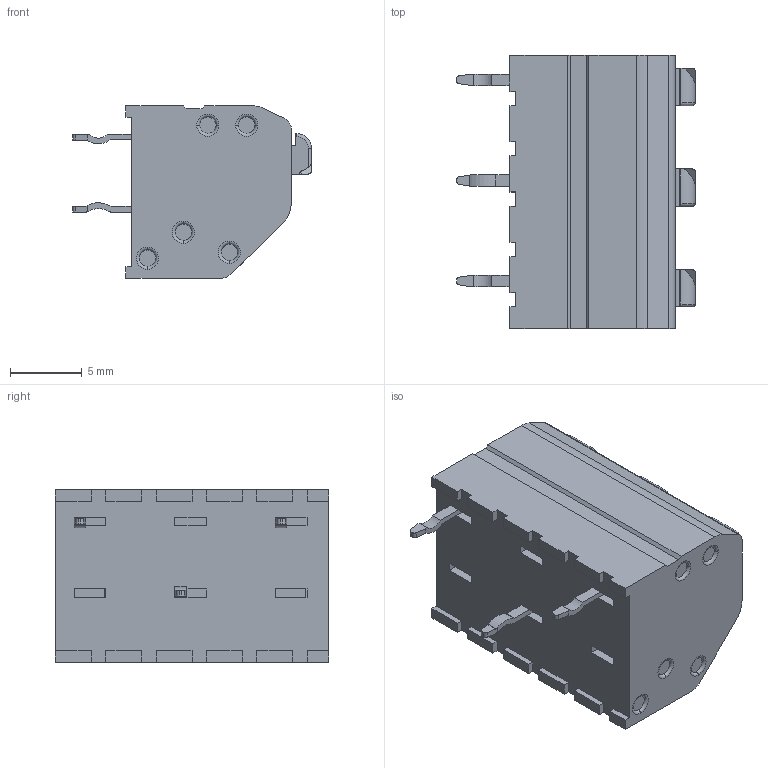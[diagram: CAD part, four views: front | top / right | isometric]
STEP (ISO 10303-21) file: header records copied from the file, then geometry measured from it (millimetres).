
FILE_DESCRIPTION((''),'2;1');
FILE_NAME('333','2019-04-17T',('zhenbing.lai'),(''),'CREO PARAMETRIC BY PTC INC, 2016260','CREO PARAMETRIC BY PTC INC, 2016260','');
FILE_SCHEMA(('CONFIG_CONTROL_DESIGN'));
Length unit declared in the file: millimetre
Products named in the file (1): 333
Bounding box: 16.6 x 19 x 12 mm (x, y, z)
Volume: 2313.4 mm3; surface area: 1331.6 mm2
Topology: 1 solids, 6 shells, 420 faces, 1114 edges, 724 vertices
Faces by surface type: plane 255, cylinder 86, torus 42, bspline 28, extrusion 9
Entity records: 14078 total; most frequent: CARTESIAN_POINT 3684, ORIENTED_EDGE 2228, DIRECTION 2062, EDGE_CURVE 1114, VERTEX_POINT 724, VECTOR 712, LINE 703, AXIS2_PLACEMENT_3D 675
